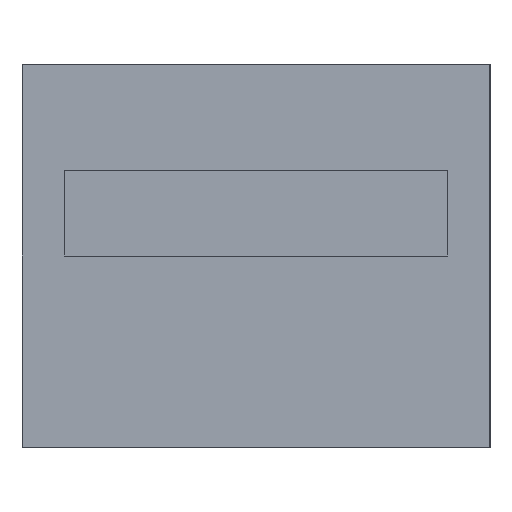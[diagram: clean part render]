
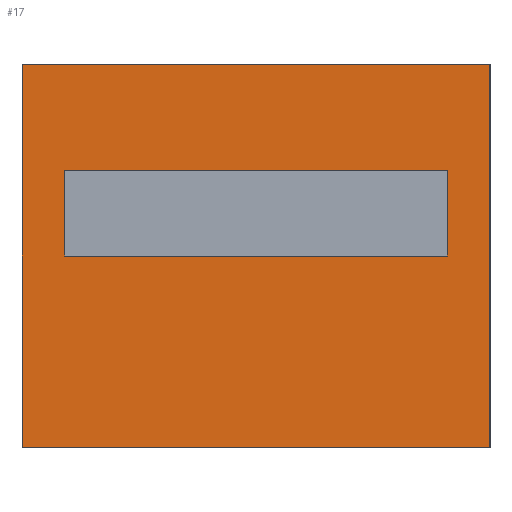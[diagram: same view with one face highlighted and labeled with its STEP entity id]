
A CAD part, left-side view. The second image highlights one B-rep face of the part: STEP entity #17.
In plain terms, the highlighted planar face has unit normal (-1, 0, 0).
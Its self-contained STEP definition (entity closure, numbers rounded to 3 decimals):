
#17 = ADVANCED_FACE('',(#18,#137),#32,.F.);
#18 = FACE_BOUND('',#19,.F.);
#19 = EDGE_LOOP('',(#20,#55,#83,#111));
#20 = ORIENTED_EDGE('',*,*,#21,.F.);
#21 = EDGE_CURVE('',#22,#24,#26,.T.);
#22 = VERTEX_POINT('',#23);
#23 = CARTESIAN_POINT('',(36.,0.,0.));
#24 = VERTEX_POINT('',#25);
#25 = CARTESIAN_POINT('',(36.,0.,18.));
#26 = SURFACE_CURVE('',#27,(#31,#43),.PCURVE_S1.);
#27 = LINE('',#28,#29);
#28 = CARTESIAN_POINT('',(36.,0.,0.));
#29 = VECTOR('',#30,1.);
#30 = DIRECTION('',(0.,0.,1.));
#31 = PCURVE('',#32,#37);
#32 = PLANE('',#33);
#33 = AXIS2_PLACEMENT_3D('',#34,#35,#36);
#34 = CARTESIAN_POINT('',(36.,0.,0.));
#35 = DIRECTION('',(1.,0.,0.));
#36 = DIRECTION('',(0.,0.,1.));
#37 = DEFINITIONAL_REPRESENTATION('',(#38),#42);
#38 = LINE('',#39,#40);
#39 = CARTESIAN_POINT('',(0.,0.));
#40 = VECTOR('',#41,1.);
#41 = DIRECTION('',(1.,0.));
#42 = ( GEOMETRIC_REPRESENTATION_CONTEXT(2) 
PARAMETRIC_REPRESENTATION_CONTEXT() REPRESENTATION_CONTEXT('2D SPACE',''
  ) );
#43 = PCURVE('',#44,#49);
#44 = PLANE('',#45);
#45 = AXIS2_PLACEMENT_3D('',#46,#47,#48);
#46 = CARTESIAN_POINT('',(36.,0.,0.));
#47 = DIRECTION('',(0.,1.,0.));
#48 = DIRECTION('',(0.,0.,1.));
#49 = DEFINITIONAL_REPRESENTATION('',(#50),#54);
#50 = LINE('',#51,#52);
#51 = CARTESIAN_POINT('',(0.,0.));
#52 = VECTOR('',#53,1.);
#53 = DIRECTION('',(1.,0.));
#54 = ( GEOMETRIC_REPRESENTATION_CONTEXT(2) 
PARAMETRIC_REPRESENTATION_CONTEXT() REPRESENTATION_CONTEXT('2D SPACE',''
  ) );
#55 = ORIENTED_EDGE('',*,*,#56,.T.);
#56 = EDGE_CURVE('',#22,#57,#59,.T.);
#57 = VERTEX_POINT('',#58);
#58 = CARTESIAN_POINT('',(36.,22.,0.));
#59 = SURFACE_CURVE('',#60,(#64,#71),.PCURVE_S1.);
#60 = LINE('',#61,#62);
#61 = CARTESIAN_POINT('',(36.,0.,0.));
#62 = VECTOR('',#63,1.);
#63 = DIRECTION('',(0.,1.,0.));
#64 = PCURVE('',#32,#65);
#65 = DEFINITIONAL_REPRESENTATION('',(#66),#70);
#66 = LINE('',#67,#68);
#67 = CARTESIAN_POINT('',(0.,0.));
#68 = VECTOR('',#69,1.);
#69 = DIRECTION('',(0.,-1.));
#70 = ( GEOMETRIC_REPRESENTATION_CONTEXT(2) 
PARAMETRIC_REPRESENTATION_CONTEXT() REPRESENTATION_CONTEXT('2D SPACE',''
  ) );
#71 = PCURVE('',#72,#77);
#72 = PLANE('',#73);
#73 = AXIS2_PLACEMENT_3D('',#74,#75,#76);
#74 = CARTESIAN_POINT('',(36.,0.,0.));
#75 = DIRECTION('',(0.,0.,1.));
#76 = DIRECTION('',(1.,0.,0.));
#77 = DEFINITIONAL_REPRESENTATION('',(#78),#82);
#78 = LINE('',#79,#80);
#79 = CARTESIAN_POINT('',(0.,0.));
#80 = VECTOR('',#81,1.);
#81 = DIRECTION('',(0.,1.));
#82 = ( GEOMETRIC_REPRESENTATION_CONTEXT(2) 
PARAMETRIC_REPRESENTATION_CONTEXT() REPRESENTATION_CONTEXT('2D SPACE',''
  ) );
#83 = ORIENTED_EDGE('',*,*,#84,.T.);
#84 = EDGE_CURVE('',#57,#85,#87,.T.);
#85 = VERTEX_POINT('',#86);
#86 = CARTESIAN_POINT('',(36.,22.,18.));
#87 = SURFACE_CURVE('',#88,(#92,#99),.PCURVE_S1.);
#88 = LINE('',#89,#90);
#89 = CARTESIAN_POINT('',(36.,22.,0.));
#90 = VECTOR('',#91,1.);
#91 = DIRECTION('',(0.,0.,1.));
#92 = PCURVE('',#32,#93);
#93 = DEFINITIONAL_REPRESENTATION('',(#94),#98);
#94 = LINE('',#95,#96);
#95 = CARTESIAN_POINT('',(0.,-22.));
#96 = VECTOR('',#97,1.);
#97 = DIRECTION('',(1.,0.));
#98 = ( GEOMETRIC_REPRESENTATION_CONTEXT(2) 
PARAMETRIC_REPRESENTATION_CONTEXT() REPRESENTATION_CONTEXT('2D SPACE',''
  ) );
#99 = PCURVE('',#100,#105);
#100 = PLANE('',#101);
#101 = AXIS2_PLACEMENT_3D('',#102,#103,#104);
#102 = CARTESIAN_POINT('',(36.,22.,0.));
#103 = DIRECTION('',(0.,1.,0.));
#104 = DIRECTION('',(0.,0.,1.));
#105 = DEFINITIONAL_REPRESENTATION('',(#106),#110);
#106 = LINE('',#107,#108);
#107 = CARTESIAN_POINT('',(0.,0.));
#108 = VECTOR('',#109,1.);
#109 = DIRECTION('',(1.,0.));
#110 = ( GEOMETRIC_REPRESENTATION_CONTEXT(2) 
PARAMETRIC_REPRESENTATION_CONTEXT() REPRESENTATION_CONTEXT('2D SPACE',''
  ) );
#111 = ORIENTED_EDGE('',*,*,#112,.F.);
#112 = EDGE_CURVE('',#24,#85,#113,.T.);
#113 = SURFACE_CURVE('',#114,(#118,#125),.PCURVE_S1.);
#114 = LINE('',#115,#116);
#115 = CARTESIAN_POINT('',(36.,0.,18.));
#116 = VECTOR('',#117,1.);
#117 = DIRECTION('',(0.,1.,0.));
#118 = PCURVE('',#32,#119);
#119 = DEFINITIONAL_REPRESENTATION('',(#120),#124);
#120 = LINE('',#121,#122);
#121 = CARTESIAN_POINT('',(18.,0.));
#122 = VECTOR('',#123,1.);
#123 = DIRECTION('',(0.,-1.));
#124 = ( GEOMETRIC_REPRESENTATION_CONTEXT(2) 
PARAMETRIC_REPRESENTATION_CONTEXT() REPRESENTATION_CONTEXT('2D SPACE',''
  ) );
#125 = PCURVE('',#126,#131);
#126 = PLANE('',#127);
#127 = AXIS2_PLACEMENT_3D('',#128,#129,#130);
#128 = CARTESIAN_POINT('',(36.,0.,18.));
#129 = DIRECTION('',(0.,0.,1.));
#130 = DIRECTION('',(1.,0.,0.));
#131 = DEFINITIONAL_REPRESENTATION('',(#132),#136);
#132 = LINE('',#133,#134);
#133 = CARTESIAN_POINT('',(0.,0.));
#134 = VECTOR('',#135,1.);
#135 = DIRECTION('',(0.,1.));
#136 = ( GEOMETRIC_REPRESENTATION_CONTEXT(2) 
PARAMETRIC_REPRESENTATION_CONTEXT() REPRESENTATION_CONTEXT('2D SPACE',''
  ) );
#137 = FACE_BOUND('',#138,.F.);
#138 = EDGE_LOOP('',(#139,#169,#197,#225));
#139 = ORIENTED_EDGE('',*,*,#140,.T.);
#140 = EDGE_CURVE('',#141,#143,#145,.T.);
#141 = VERTEX_POINT('',#142);
#142 = CARTESIAN_POINT('',(36.,2.,9.));
#143 = VERTEX_POINT('',#144);
#144 = CARTESIAN_POINT('',(36.,2.,13.));
#145 = SURFACE_CURVE('',#146,(#150,#157),.PCURVE_S1.);
#146 = LINE('',#147,#148);
#147 = CARTESIAN_POINT('',(36.,2.,9.));
#148 = VECTOR('',#149,1.);
#149 = DIRECTION('',(0.,0.,1.));
#150 = PCURVE('',#32,#151);
#151 = DEFINITIONAL_REPRESENTATION('',(#152),#156);
#152 = LINE('',#153,#154);
#153 = CARTESIAN_POINT('',(9.,-2.));
#154 = VECTOR('',#155,1.);
#155 = DIRECTION('',(1.,0.));
#156 = ( GEOMETRIC_REPRESENTATION_CONTEXT(2) 
PARAMETRIC_REPRESENTATION_CONTEXT() REPRESENTATION_CONTEXT('2D SPACE',''
  ) );
#157 = PCURVE('',#158,#163);
#158 = PLANE('',#159);
#159 = AXIS2_PLACEMENT_3D('',#160,#161,#162);
#160 = CARTESIAN_POINT('',(0.,2.,9.));
#161 = DIRECTION('',(0.,1.,0.));
#162 = DIRECTION('',(0.,0.,1.));
#163 = DEFINITIONAL_REPRESENTATION('',(#164),#168);
#164 = LINE('',#165,#166);
#165 = CARTESIAN_POINT('',(0.,36.));
#166 = VECTOR('',#167,1.);
#167 = DIRECTION('',(1.,0.));
#168 = ( GEOMETRIC_REPRESENTATION_CONTEXT(2) 
PARAMETRIC_REPRESENTATION_CONTEXT() REPRESENTATION_CONTEXT('2D SPACE',''
  ) );
#169 = ORIENTED_EDGE('',*,*,#170,.T.);
#170 = EDGE_CURVE('',#143,#171,#173,.T.);
#171 = VERTEX_POINT('',#172);
#172 = CARTESIAN_POINT('',(36.,20.,13.));
#173 = SURFACE_CURVE('',#174,(#178,#185),.PCURVE_S1.);
#174 = LINE('',#175,#176);
#175 = CARTESIAN_POINT('',(36.,2.,13.));
#176 = VECTOR('',#177,1.);
#177 = DIRECTION('',(0.,1.,0.));
#178 = PCURVE('',#32,#179);
#179 = DEFINITIONAL_REPRESENTATION('',(#180),#184);
#180 = LINE('',#181,#182);
#181 = CARTESIAN_POINT('',(13.,-2.));
#182 = VECTOR('',#183,1.);
#183 = DIRECTION('',(0.,-1.));
#184 = ( GEOMETRIC_REPRESENTATION_CONTEXT(2) 
PARAMETRIC_REPRESENTATION_CONTEXT() REPRESENTATION_CONTEXT('2D SPACE',''
  ) );
#185 = PCURVE('',#186,#191);
#186 = PLANE('',#187);
#187 = AXIS2_PLACEMENT_3D('',#188,#189,#190);
#188 = CARTESIAN_POINT('',(0.,2.,13.));
#189 = DIRECTION('',(0.,0.,1.));
#190 = DIRECTION('',(1.,0.,0.));
#191 = DEFINITIONAL_REPRESENTATION('',(#192),#196);
#192 = LINE('',#193,#194);
#193 = CARTESIAN_POINT('',(36.,0.));
#194 = VECTOR('',#195,1.);
#195 = DIRECTION('',(0.,1.));
#196 = ( GEOMETRIC_REPRESENTATION_CONTEXT(2) 
PARAMETRIC_REPRESENTATION_CONTEXT() REPRESENTATION_CONTEXT('2D SPACE',''
  ) );
#197 = ORIENTED_EDGE('',*,*,#198,.F.);
#198 = EDGE_CURVE('',#199,#171,#201,.T.);
#199 = VERTEX_POINT('',#200);
#200 = CARTESIAN_POINT('',(36.,20.,9.));
#201 = SURFACE_CURVE('',#202,(#206,#213),.PCURVE_S1.);
#202 = LINE('',#203,#204);
#203 = CARTESIAN_POINT('',(36.,20.,9.));
#204 = VECTOR('',#205,1.);
#205 = DIRECTION('',(0.,0.,1.));
#206 = PCURVE('',#32,#207);
#207 = DEFINITIONAL_REPRESENTATION('',(#208),#212);
#208 = LINE('',#209,#210);
#209 = CARTESIAN_POINT('',(9.,-20.));
#210 = VECTOR('',#211,1.);
#211 = DIRECTION('',(1.,0.));
#212 = ( GEOMETRIC_REPRESENTATION_CONTEXT(2) 
PARAMETRIC_REPRESENTATION_CONTEXT() REPRESENTATION_CONTEXT('2D SPACE',''
  ) );
#213 = PCURVE('',#214,#219);
#214 = PLANE('',#215);
#215 = AXIS2_PLACEMENT_3D('',#216,#217,#218);
#216 = CARTESIAN_POINT('',(0.,20.,9.));
#217 = DIRECTION('',(0.,1.,0.));
#218 = DIRECTION('',(0.,0.,1.));
#219 = DEFINITIONAL_REPRESENTATION('',(#220),#224);
#220 = LINE('',#221,#222);
#221 = CARTESIAN_POINT('',(0.,36.));
#222 = VECTOR('',#223,1.);
#223 = DIRECTION('',(1.,0.));
#224 = ( GEOMETRIC_REPRESENTATION_CONTEXT(2) 
PARAMETRIC_REPRESENTATION_CONTEXT() REPRESENTATION_CONTEXT('2D SPACE',''
  ) );
#225 = ORIENTED_EDGE('',*,*,#226,.F.);
#226 = EDGE_CURVE('',#141,#199,#227,.T.);
#227 = SURFACE_CURVE('',#228,(#232,#239),.PCURVE_S1.);
#228 = LINE('',#229,#230);
#229 = CARTESIAN_POINT('',(36.,2.,9.));
#230 = VECTOR('',#231,1.);
#231 = DIRECTION('',(0.,1.,0.));
#232 = PCURVE('',#32,#233);
#233 = DEFINITIONAL_REPRESENTATION('',(#234),#238);
#234 = LINE('',#235,#236);
#235 = CARTESIAN_POINT('',(9.,-2.));
#236 = VECTOR('',#237,1.);
#237 = DIRECTION('',(0.,-1.));
#238 = ( GEOMETRIC_REPRESENTATION_CONTEXT(2) 
PARAMETRIC_REPRESENTATION_CONTEXT() REPRESENTATION_CONTEXT('2D SPACE',''
  ) );
#239 = PCURVE('',#240,#245);
#240 = PLANE('',#241);
#241 = AXIS2_PLACEMENT_3D('',#242,#243,#244);
#242 = CARTESIAN_POINT('',(0.,2.,9.));
#243 = DIRECTION('',(0.,0.,1.));
#244 = DIRECTION('',(1.,0.,0.));
#245 = DEFINITIONAL_REPRESENTATION('',(#246),#250);
#246 = LINE('',#247,#248);
#247 = CARTESIAN_POINT('',(36.,0.));
#248 = VECTOR('',#249,1.);
#249 = DIRECTION('',(0.,1.));
#250 = ( GEOMETRIC_REPRESENTATION_CONTEXT(2) 
PARAMETRIC_REPRESENTATION_CONTEXT() REPRESENTATION_CONTEXT('2D SPACE',''
  ) );
